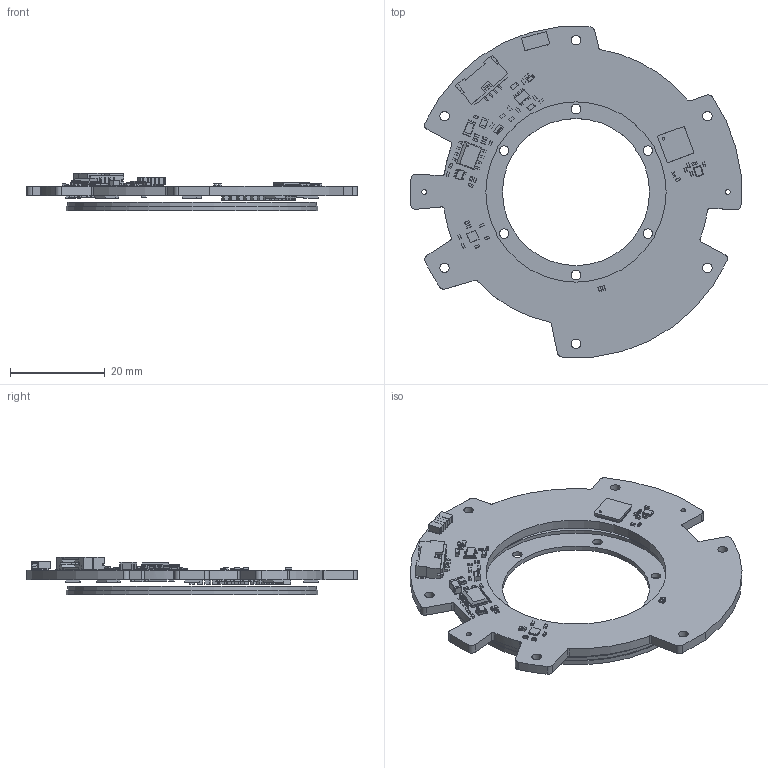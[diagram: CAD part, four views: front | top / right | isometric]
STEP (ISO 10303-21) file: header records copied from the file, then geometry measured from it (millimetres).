
FILE_DESCRIPTION(/* description */ (''),/* implementation_level */ '2;1');
FILE_NAME(/* name */ 'EAS-094 20260722.stp',/* time_stamp */ '2026-07-22T11:25:20+08:00',/* author */ (''),/* organization */ (''),/* preprocessor_version */ 'ST-DEVELOPER v20',/* originating_system */ 'SIEMENS PLM Software NX2312.1700',/* authorisation */ '');
FILE_SCHEMA (('AP203_CONFIGURATION_CONTROLLED_3D_DESIGN_OF_MECHANICAL_PARTS_AND_ASSEMBLIES_MIM_LF { 1 0 10303 403 2 1 2}'));
Products named in the file (1): EAS-094_stp_objects
Bounding box: 69.6 x 69.6 x 7.91 mm (x, y, z)
Volume: 6818.9 mm3; surface area: 11884 mm2
Topology: 439 solids, 439 shells, 5971 faces, 14419 edges, 9014 vertices
Faces by surface type: plane 4530, cylinder 1085, sphere 344, torus 12
Full cylindrical faces by diameter (mm): 1 x2, 2 x12, 31 x1, 38 x1, 40.5 x1, 52.5 x1, 53 x1
Entity records: 171733 total; most frequent: CARTESIAN_POINT 29115, DIRECTION 28214, ORIENTED_EDGE 28158, EDGE_CURVE 14079, LINE 11872, VECTOR 11872, VERTEX_POINT 9008, AXIS2_PLACEMENT_3D 8171
